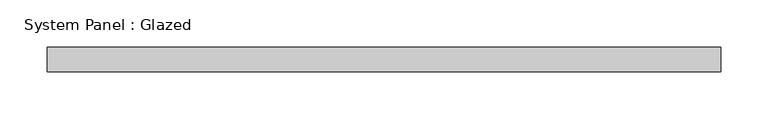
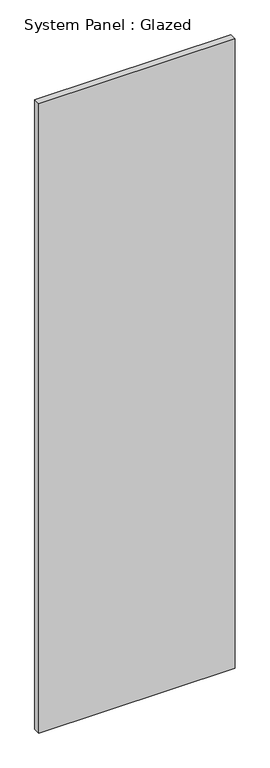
"""IFC4 building model written with IfcOpenShell, lengths in millimetres: plate geometry, System Panel : Glazed."""

from ifc_helpers import new_model, si_unit, origin, origin_with_axes, place, context, project, spatial, polyline, outline, extrude, source, transform, mapped, element, save


def system_panel_glazed_a47317d6(model_context):
    return source(origin(), model_context, "Body", "SweptSolid", [
        extrude(outline(polyline([(354.2109376, -44.45), (-354.2109376, -44.45), (-354.2109376, -19.05), (354.2109376, -19.05), (354.2109376, -44.45)])), origin_with_axes(), (0.0, 0.0, 1.0), 2400.3),
    ])


if __name__ == "__main__":
    model = new_model("IFC4")
    model_context = context("Model", 3, world=origin())
    ifc_project = project(units=[si_unit("LENGTHUNIT", "METRE", prefix="MILLI")], contexts=[model_context])
    site = spatial("IfcSite", under=ifc_project)
    building = spatial("IfcBuilding", under=site)
    placement = place(None, origin())
    system_panel_glazed_shape = system_panel_glazed_a47317d6(model_context)
    element("IfcPlate", 1, ObjectType="System Panel : Glazed", at=placement, inside=building, context=model_context, shape_type="MappedRepresentation", body=[
        mapped(system_panel_glazed_shape, transform((0.0, 0.0, 0.0), x_axis=(1.0, 0.0, 0.0), y_axis=(0.0, 1.0, 0.0), z_axis=(0.0, 0.0, 1.0))),
    ])
    save(model, "model.ifc")
